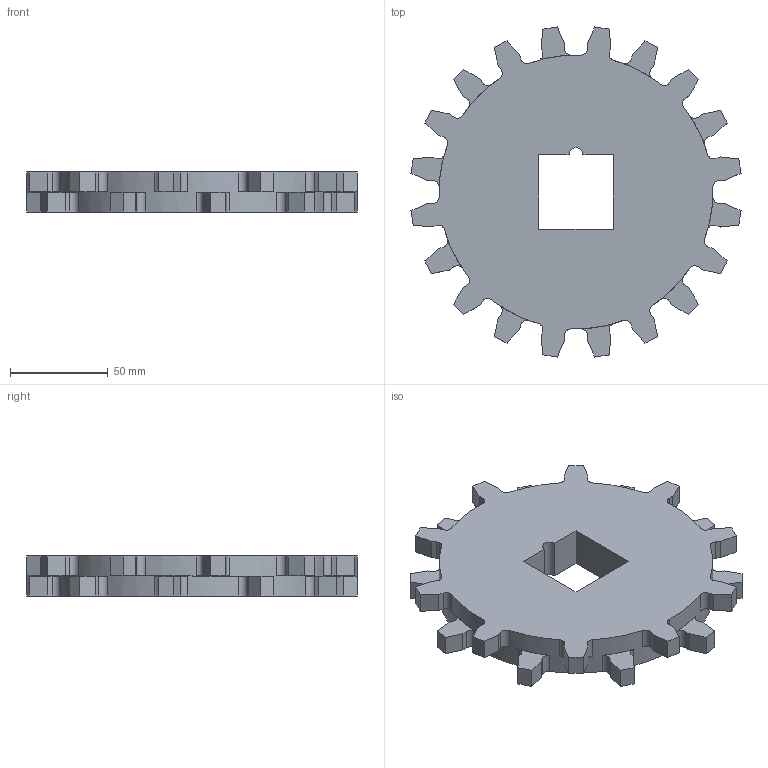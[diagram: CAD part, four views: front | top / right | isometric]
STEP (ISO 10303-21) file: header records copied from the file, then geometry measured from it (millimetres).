
FILE_DESCRIPTION((''),'2;1');
FILE_NAME('S2600_SPROCKET_65_SQ','2008-12-12T',('jmumphre'),(''),'PRO/ENGINEER BY PARAMETRIC TECHNOLOGY CORPORATION, 2008150','PRO/ENGINEER BY PARAMETRIC TECHNOLOGY CORPORATION, 2008150','');
FILE_SCHEMA(('CONFIG_CONTROL_DESIGN'));
Length unit declared in the file: inch
Products named in the file (1): S2600_SPROCKET_65_SQ
Bounding box: 168.73 x 168.73 x 20.45 mm (x, y, z)
Volume: 317019.2 mm3; surface area: 51432.7 mm2
Topology: 1 solids, 1 shells, 170 faces, 504 edges, 336 vertices
Faces by surface type: plane 127, cylinder 43
Entity records: 5738 total; most frequent: CARTESIAN_POINT 1010, ORIENTED_EDGE 1008, DIRECTION 970, EDGE_CURVE 504, VECTOR 378, LINE 378, VERTEX_POINT 336, AXIS2_PLACEMENT_3D 296
